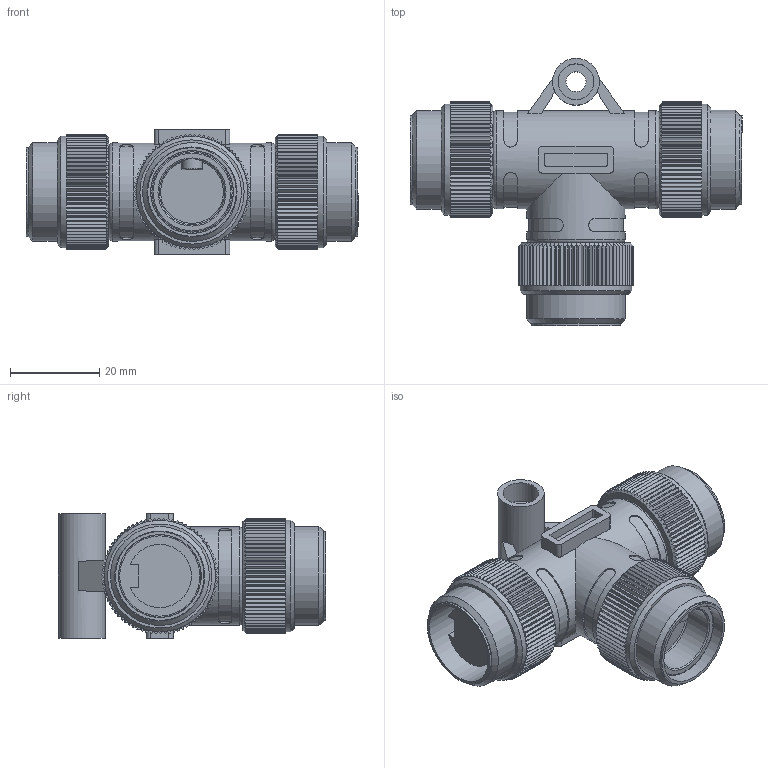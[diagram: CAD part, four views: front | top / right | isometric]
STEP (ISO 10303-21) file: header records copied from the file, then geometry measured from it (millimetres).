
FILE_DESCRIPTION(/* description */ (''),/* implementation_level */ '2;1');
FILE_NAME(/* name */ 'L:\CAD Inventor\Workspace\Catalogs\CATALOG-TURCK CONNECTORS\MINI-TEE CM12 (RXM-RSM-RXM).stp',/* time_stamp */ '2021-07-07T13:37:28-05:00',/* author */ ('RSwans'),/* organization */ (''),/* preprocessor_version */ 'ST-DEVELOPER v16.5',/* originating_system */ 'Autodesk Inventor 2017',/* authorisation */ '');
FILE_SCHEMA (('AUTOMOTIVE_DESIGN { 1 0 10303 214 3 1 1 }'));
Length unit declared in the file: millimetre
Products named in the file (1): Part3
Bounding box: 74.5 x 59.95 x 28 mm (x, y, z)
Volume: 34219.9 mm3; surface area: 22470.3 mm2
Topology: 1 solids, 11 shells, 1257 faces, 3112 edges, 1920 vertices
Faces by surface type: plane 838, cylinder 381, cone 28, torus 10
Full cylindrical faces by diameter (mm): 1.9 x10, 3 x5, 3.2 x10, 3.3 x10, 4.5 x1, 8 x2, 10.5 x1, 12 x2, 13 x4, 13.2 x4, 15.5 x3, 16 x3, 18 x3, 18.5 x3, 18.6 x3, 19.5 x3, 19.9 x3, 21.996 x2, 22.2 x3, 25 x3
Entity records: 37014 total; most frequent: CARTESIAN_POINT 7530, DIRECTION 5969, ORIENTED_EDGE 5874, EDGE_CURVE 2937, AXIS2_PLACEMENT_3D 2304, VERTEX_POINT 1863, EDGE_LOOP 1438, LINE 1361
